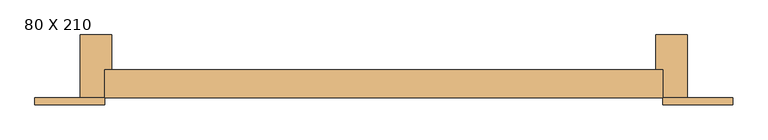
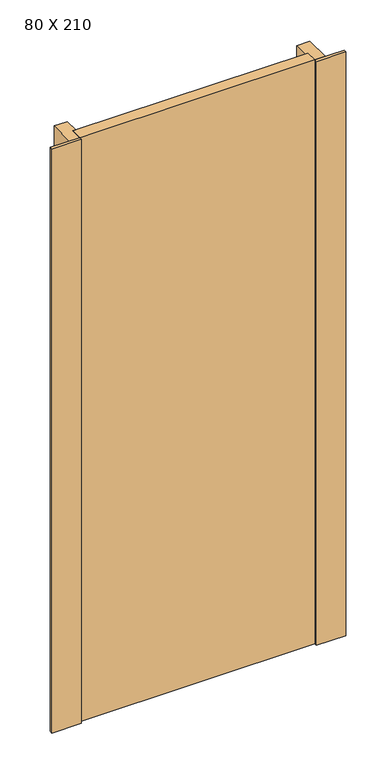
"""IFC4 building model written with IfcOpenShell, lengths in millimetres: door geometry, PORTÃO DE ABRIR - 1 FOLHA : 80 X 210."""

from ifc_helpers import new_model, si_unit, origin, origin_with_axes, place, context, project, spatial, polyline, outline, extrude, source, transform, mapped, element, save


def door_80_x_210_45d6cdc8(model_context):
    return source(origin(), model_context, "Body", "SweptSolid", [
        extrude(outline(polyline([(450.0, -75.0), (-350.0, -75.0), (-350.0, -35.0), (450.0, -35.0), (450.0, -75.0)])), origin_with_axes(), (0.0, 0.0, 1.0), 2100.0),
        extrude(outline(polyline([(550.0, -85.0), (450.0, -85.0), (450.0, -75.0), (550.0, -75.0), (550.0, -85.0)])), origin_with_axes(), (0.0, 0.0, 1.0), 2100.0),
        extrude(outline(polyline([(-350.0, -85.0), (-450.0, -85.0), (-450.0, -75.0), (-350.0, -75.0), (-350.0, -85.0)])), origin_with_axes(), (0.0, 0.0, 1.0), 2100.0),
        extrude(outline(polyline([(-385.0, 15.0), (-340.0, 15.0), (-340.0, -35.0), (-350.0, -35.0), (-350.0, -75.0), (-385.0, -75.0), (-385.0, 15.0)])), origin_with_axes(), (0.0, 0.0, 1.0), 2100.0),
        extrude(outline(polyline([(485.0, 15.0), (485.0, -75.0), (450.0, -75.0), (450.0, -35.0), (440.0, -35.0), (440.0, 15.0), (485.0, 15.0)])), origin_with_axes(), (0.0, 0.0, 1.0), 2100.0),
    ])


if __name__ == "__main__":
    model = new_model("IFC4")
    model_context = context("Model", 3, world=origin())
    ifc_project = project(units=[si_unit("LENGTHUNIT", "METRE", prefix="MILLI")], contexts=[model_context])
    site = spatial("IfcSite", under=ifc_project)
    building = spatial("IfcBuilding", under=site)
    placement = place(None, origin())
    door_80_x_210_shape = door_80_x_210_45d6cdc8(model_context)
    element("IfcDoor", 1, ObjectType="PORTÃO DE ABRIR - 1 FOLHA : 80 X 210", at=placement, inside=building, context=model_context, shape_type="MappedRepresentation", body=[
        mapped(door_80_x_210_shape, transform((0.0, 0.0, 0.0), x_axis=(1.0, 0.0, 0.0), y_axis=(0.0, 1.0, 0.0), z_axis=(0.0, 0.0, 1.0))),
    ])
    save(model, "model.ifc")
